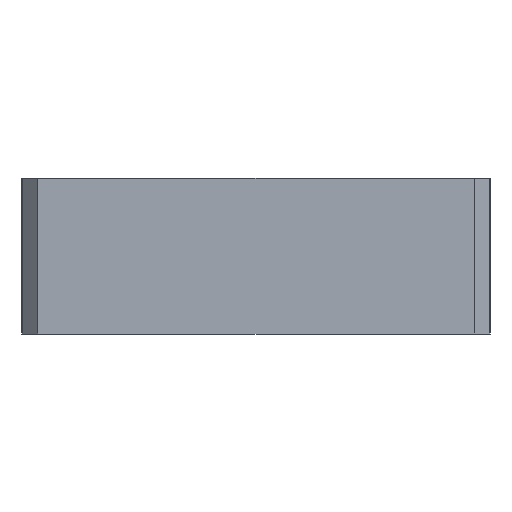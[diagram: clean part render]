
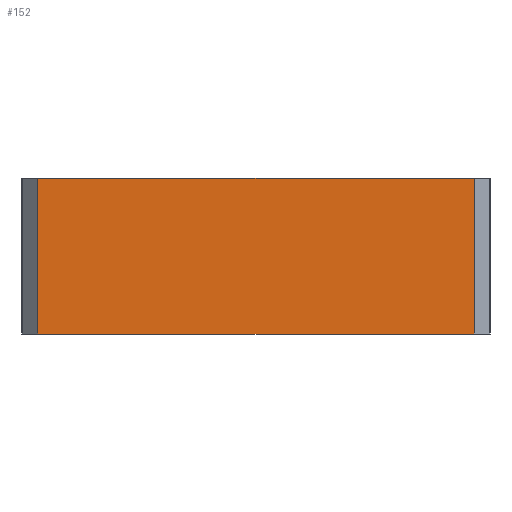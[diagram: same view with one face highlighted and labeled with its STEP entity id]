
A CAD part, left-side view. The second image highlights one B-rep face of the part: STEP entity #152.
In plain terms, the highlighted planar face has unit normal (-1, 0, 0).
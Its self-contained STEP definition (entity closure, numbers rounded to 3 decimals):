
#14 = CARTESIAN_POINT ( 'NONE',  ( -46., 14., 5. ) ) ;
#44 = CARTESIAN_POINT ( 'NONE',  ( -46., -14., 5. ) ) ;
#109 = VERTEX_POINT ( 'NONE', #44 ) ;
#137 = VECTOR ( 'NONE', #757, 1000. ) ;
#152 = ADVANCED_FACE ( 'NONE', ( #950 ), #767, .F. ) ;
#328 = AXIS2_PLACEMENT_3D ( 'NONE', #419, #422, #1137 ) ;
#333 = CARTESIAN_POINT ( 'NONE',  ( -46., 14., -5. ) ) ;
#344 = DIRECTION ( 'NONE',  ( 0., -1., 0. ) ) ;
#365 = LINE ( 'NONE', #14, #986 ) ;
#393 = ORIENTED_EDGE ( 'NONE', *, *, #966, .F. ) ;
#399 = LINE ( 'NONE', #582, #137 ) ;
#419 = CARTESIAN_POINT ( 'NONE',  ( -46., 15., 5. ) ) ;
#422 = DIRECTION ( 'NONE',  ( 1., 0., 0. ) ) ;
#434 = ORIENTED_EDGE ( 'NONE', *, *, #518, .T. ) ;
#463 = ORIENTED_EDGE ( 'NONE', *, *, #690, .T. ) ;
#518 = EDGE_CURVE ( 'NONE', #1158, #109, #889, .T. ) ;
#531 = CARTESIAN_POINT ( 'NONE',  ( -46., -14., 5. ) ) ;
#582 = CARTESIAN_POINT ( 'NONE',  ( -46., 15., -5. ) ) ;
#614 = CARTESIAN_POINT ( 'NONE',  ( -46., 15., 5. ) ) ;
#688 = VECTOR ( 'NONE', #995, 1000. ) ;
#690 = EDGE_CURVE ( 'NONE', #1032, #1158, #399, .T. ) ;
#757 = DIRECTION ( 'NONE',  ( 0., -1., 0. ) ) ;
#767 = PLANE ( 'NONE',  #328 ) ;
#792 = EDGE_CURVE ( 'NONE', #838, #1032, #365, .T. ) ;
#805 = VECTOR ( 'NONE', #344, 1000. ) ;
#838 = VERTEX_POINT ( 'NONE', #1003 ) ;
#881 = LINE ( 'NONE', #614, #805 ) ;
#889 = LINE ( 'NONE', #531, #688 ) ;
#912 = DIRECTION ( 'NONE',  ( 0., 0., -1. ) ) ;
#950 = FACE_OUTER_BOUND ( 'NONE', #982, .T. ) ;
#966 = EDGE_CURVE ( 'NONE', #838, #109, #881, .T. ) ;
#982 = EDGE_LOOP ( 'NONE', ( #463, #434, #393, #1070 ) ) ;
#986 = VECTOR ( 'NONE', #912, 1000. ) ;
#995 = DIRECTION ( 'NONE',  ( 0., 0., 1. ) ) ;
#1003 = CARTESIAN_POINT ( 'NONE',  ( -46., 14., 5. ) ) ;
#1019 = CARTESIAN_POINT ( 'NONE',  ( -46., -14., -5. ) ) ;
#1032 = VERTEX_POINT ( 'NONE', #333 ) ;
#1070 = ORIENTED_EDGE ( 'NONE', *, *, #792, .T. ) ;
#1137 = DIRECTION ( 'NONE',  ( 0., 1., 0. ) ) ;
#1158 = VERTEX_POINT ( 'NONE', #1019 ) ;
